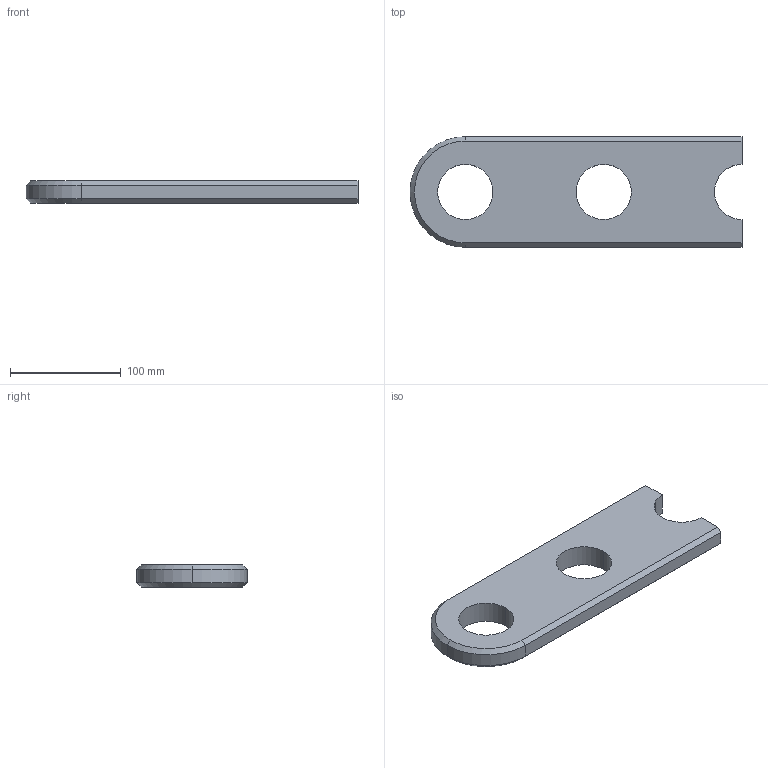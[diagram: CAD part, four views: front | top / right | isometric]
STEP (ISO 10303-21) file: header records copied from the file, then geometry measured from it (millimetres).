
FILE_DESCRIPTION (( 'STEP AP203' ), '1' );
FILE_NAME ('LINK CUT.STEP', '2023-01-14T16:27:28', ( '' ), ( '' ), 'SwSTEP 2.0', 'SolidWorks 2022', '' );
FILE_SCHEMA (( 'CONFIG_CONTROL_DESIGN' ));
Length unit declared in the file: millimetre
Products named in the file (1): LINK CUT
Bounding box: 300 x 100 x 20 mm (x, y, z)
Volume: 469918.8 mm3; surface area: 66900 mm2
Topology: 1 solids, 1 shells, 22 faces, 55 edges, 35 vertices
Faces by surface type: plane 10, cylinder 9, cone 3
Entity records: 745 total; most frequent: DIRECTION 122, CARTESIAN_POINT 113, ORIENTED_EDGE 110, EDGE_CURVE 55, AXIS2_PLACEMENT_3D 44, VERTEX_POINT 35, LINE 34, VECTOR 34
